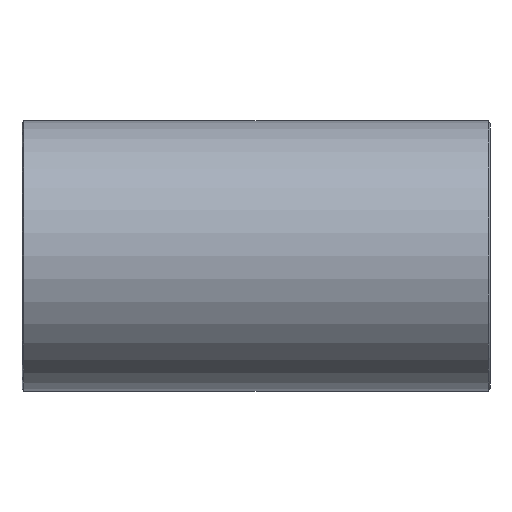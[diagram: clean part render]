
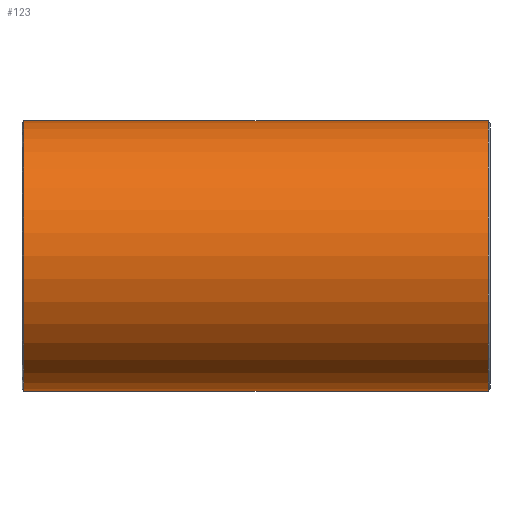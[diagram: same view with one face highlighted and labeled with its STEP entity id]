
A CAD part, front view. The second image highlights one B-rep face of the part: STEP entity #123.
In plain terms, the highlighted cylindrical face has radius 82.6 mm (diameter 165.2 mm), a partial arc.
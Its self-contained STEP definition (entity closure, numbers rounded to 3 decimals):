
#29 = VERTEX_POINT ( 'NONE', #380 ) ;
#75 = DIRECTION ( 'NONE',  ( -1., 0., 0. ) ) ;
#107 = VERTEX_POINT ( 'NONE', #1472 ) ;
#123 = ADVANCED_FACE ( 'NONE', ( #1822 ), #932, .T. ) ;
#218 = DIRECTION ( 'NONE',  ( -1., 0., 0. ) ) ;
#221 = VECTOR ( 'NONE', #1038, 1000. ) ;
#231 = CARTESIAN_POINT ( 'NONE',  ( 142.9, 0., 82.6 ) ) ;
#237 = CARTESIAN_POINT ( 'NONE',  ( 141.753, 0., 82.6 ) ) ;
#311 = LINE ( 'NONE', #872, #221 ) ;
#380 = CARTESIAN_POINT ( 'NONE',  ( -141.753, 0., -82.6 ) ) ;
#394 = CARTESIAN_POINT ( 'NONE',  ( 142.9, 0., 0. ) ) ;
#663 = DIRECTION ( 'NONE',  ( -1., 0., 0. ) ) ;
#760 = AXIS2_PLACEMENT_3D ( 'NONE', #1742, #75, #1014 ) ;
#831 = EDGE_LOOP ( 'NONE', ( #1040, #1413, #1237, #1399 ) ) ;
#872 = CARTESIAN_POINT ( 'NONE',  ( 142.9, 0., -82.6 ) ) ;
#894 = EDGE_CURVE ( 'NONE', #29, #951, #1144, .T. ) ;
#932 = CYLINDRICAL_SURFACE ( 'NONE', #1451, 82.6 ) ;
#947 = DIRECTION ( 'NONE',  ( 0., 0., 1. ) ) ;
#951 = VERTEX_POINT ( 'NONE', #1641 ) ;
#961 = DIRECTION ( 'NONE',  ( -1., 0., 0. ) ) ;
#1014 = DIRECTION ( 'NONE',  ( 0., 0., 1. ) ) ;
#1038 = DIRECTION ( 'NONE',  ( -1., 0., 0. ) ) ;
#1040 = ORIENTED_EDGE ( 'NONE', *, *, #1797, .F. ) ;
#1144 = CIRCLE ( 'NONE', #1713, 82.6 ) ;
#1160 = LINE ( 'NONE', #231, #1702 ) ;
#1237 = ORIENTED_EDGE ( 'NONE', *, *, #1729, .T. ) ;
#1327 = EDGE_CURVE ( 'NONE', #107, #2117, #1782, .T. ) ;
#1396 = DIRECTION ( 'NONE',  ( 0., 0., 1. ) ) ;
#1399 = ORIENTED_EDGE ( 'NONE', *, *, #894, .F. ) ;
#1413 = ORIENTED_EDGE ( 'NONE', *, *, #1327, .T. ) ;
#1451 = AXIS2_PLACEMENT_3D ( 'NONE', #394, #218, #947 ) ;
#1472 = CARTESIAN_POINT ( 'NONE',  ( 141.753, 0., -82.6 ) ) ;
#1576 = CARTESIAN_POINT ( 'NONE',  ( -141.753, 0., 0. ) ) ;
#1641 = CARTESIAN_POINT ( 'NONE',  ( -141.753, 0., 82.6 ) ) ;
#1702 = VECTOR ( 'NONE', #961, 1000. ) ;
#1713 = AXIS2_PLACEMENT_3D ( 'NONE', #1576, #663, #1396 ) ;
#1729 = EDGE_CURVE ( 'NONE', #2117, #951, #1160, .T. ) ;
#1742 = CARTESIAN_POINT ( 'NONE',  ( 141.753, 0., 0. ) ) ;
#1782 = CIRCLE ( 'NONE', #760, 82.6 ) ;
#1797 = EDGE_CURVE ( 'NONE', #107, #29, #311, .T. ) ;
#1822 = FACE_OUTER_BOUND ( 'NONE', #831, .T. ) ;
#2117 = VERTEX_POINT ( 'NONE', #237 ) ;
